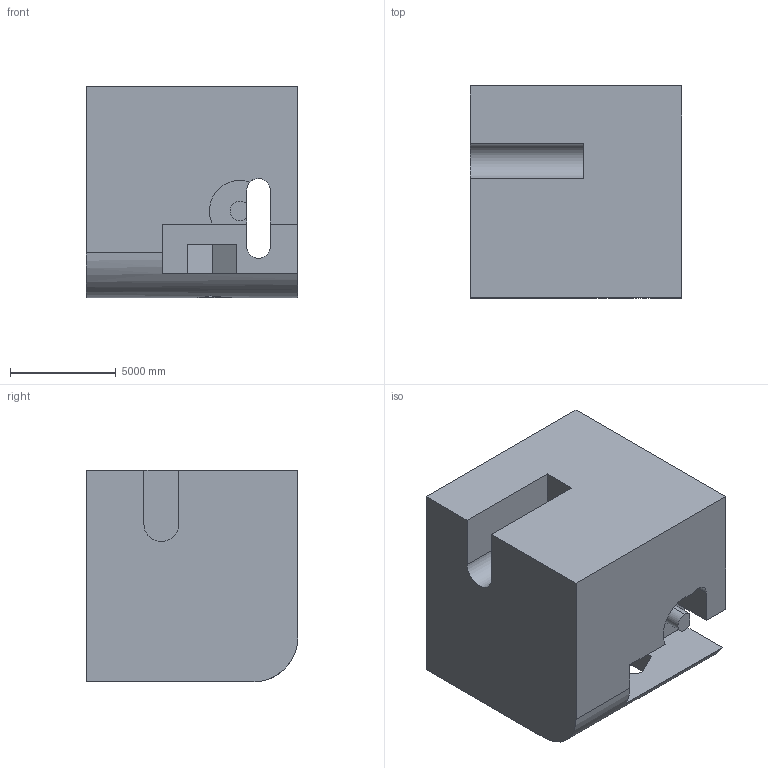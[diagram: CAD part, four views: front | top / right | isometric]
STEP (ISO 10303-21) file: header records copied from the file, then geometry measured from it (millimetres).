
FILE_DESCRIPTION (( 'STEP AP203' ), '1' );
FILE_NAME ('308.STEP', '2022-09-07T12:46:01', ( 'user' ), ( '' ), 'SwSTEP 2.0', 'SolidWorks 2021', '' );
FILE_SCHEMA (( 'CONFIG_CONTROL_DESIGN' ));
Length unit declared in the file: centimetre
Products named in the file (1): 308
Bounding box: 10000 x 10000 x 10000 mm (x, y, z)
Volume: 874141121722.7 mm3; surface area: 732437263.9 mm2
Topology: 1 solids, 1 shells, 34 faces, 105 edges, 70 vertices
Faces by surface type: plane 25, cylinder 9
Entity records: 1255 total; most frequent: CARTESIAN_POINT 216, ORIENTED_EDGE 210, DIRECTION 194, EDGE_CURVE 105, VECTOR 82, LINE 82, VERTEX_POINT 70, AXIS2_PLACEMENT_3D 56
